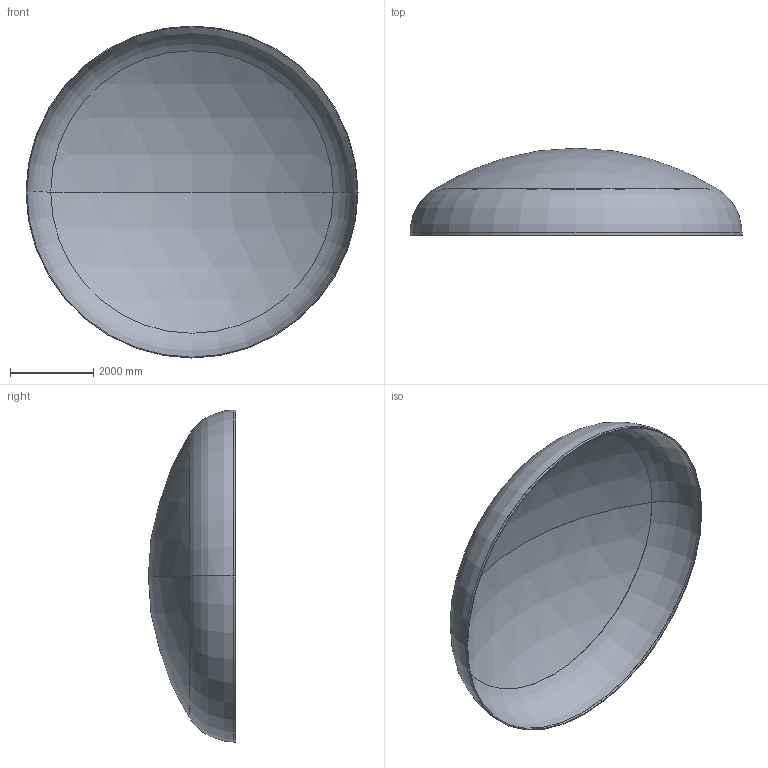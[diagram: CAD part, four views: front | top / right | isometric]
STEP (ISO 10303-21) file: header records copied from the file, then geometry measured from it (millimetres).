
FILE_DESCRIPTION (( 'STEP AP203' ), '1' );
FILE_NAME ('DIN 28013 Korbbogenform_-_Boden DIN 28013 - 8000 x 60 - I - s=19.step', '2016-07-04T10:59:08', ( '' ), ( '' ), 'SwSTEP 2.0', 'SolidWorks 2013', '' );
FILE_SCHEMA (( 'CONFIG_CONTROL_DESIGN' ));
Length unit declared in the file: millimetre
Products named in the file (1): DIN 28013 Korbbogenform_-_Boden DIN 28013 - 8000 x 60 - I - s=19
Bounding box: 8000 x 2101.68 x 8000 mm (x, y, z)
Volume: 1346853067.9 mm3; surface area: 142251092.9 mm2
Topology: 1 solids, 1 shells, 13 faces, 24 edges, 14 vertices
Faces by surface type: torus 4, cylinder 4, sphere 4, plane 1
Entity records: 407 total; most frequent: DIRECTION 72, CARTESIAN_POINT 52, ORIENTED_EDGE 48, AXIS2_PLACEMENT_3D 34, EDGE_CURVE 24, CIRCLE 20, VERTEX_POINT 14, EDGE_LOOP 14
